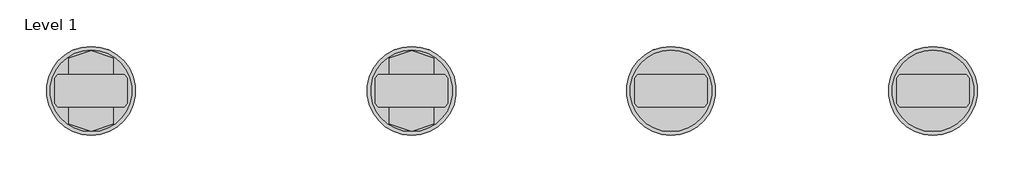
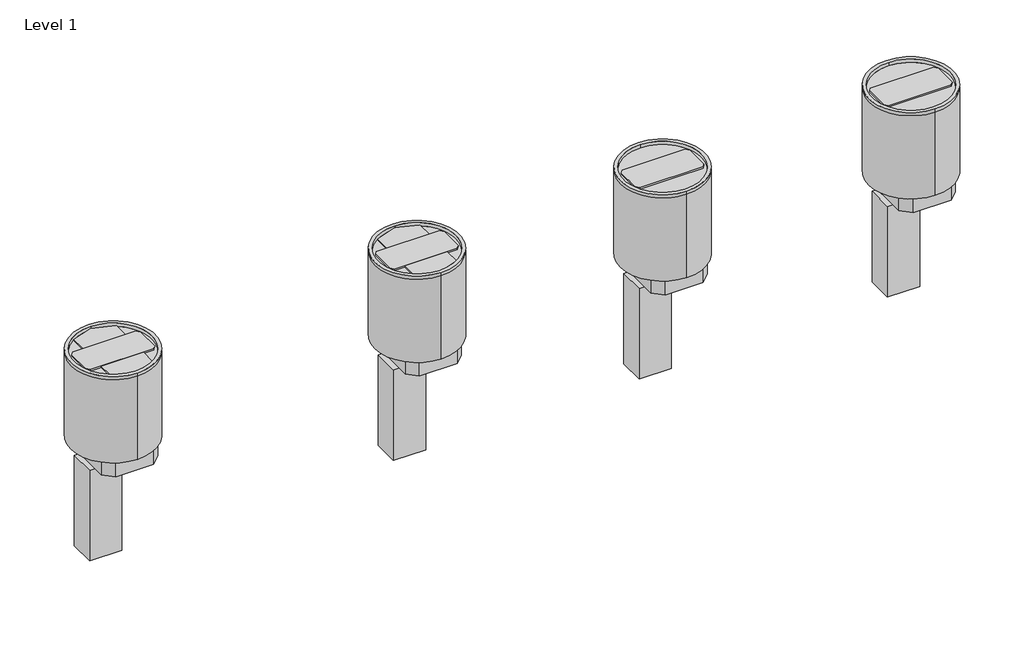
# One storey: 12 proxies.
"""IFC4 building model written with IfcOpenShell, lengths in millimetres."""

from ifc_helpers import new_model, si_unit, origin, place, context, project, spatial, transform, mapped, element, save
from components import center_mount_8_port_comm_47faeaf6, side_mount_2_port_comm_af62ca1e, surface_black_75880dd1

model = new_model("IFC4")

# Units and contexts
model_context = context("Model", 3, world=origin())
ifc_project = project(units=[si_unit("LENGTHUNIT", "METRE", prefix="MILLI")], contexts=[model_context])

# Site, building, storey
site = spatial("IfcSite", under=ifc_project)
building = spatial("IfcBuilding", under=site)
storey = spatial("IfcBuildingStorey", under=building, Name="Level 1", Elevation=0.0)

# Proxies
placement = place(None, origin())
center_mount_8_port_comm_shape = center_mount_8_port_comm_47faeaf6(model_context)
element("IfcBuildingElementProxy", 1, Name="Device_Plate-Evolution_Poke_Thru_6AT_Series-Wiremold : Center Mount-Decorator", ObjectType="Device_Plate-Evolution_Poke_Thru_6AT_Series-Wiremold : Center Mount-Decorator", at=placement, inside=storey, context=model_context, shape_type="MappedRepresentation", body=[
    mapped(center_mount_8_port_comm_shape, transform((2693.9097822, 1443.3219871, -6.35), x_axis=(0.0, -1.0, 0.0), y_axis=(1.0, 0.0, 0.0), z_axis=(0.0, 0.0, 1.0))),
])
side_mount_2_port_comm_shape = side_mount_2_port_comm_af62ca1e(model_context)
element("IfcBuildingElementProxy", 2, Name="Device_Plate-Evolution_Poke_Thru_6AT_Series-Wiremold : Side Mount-MAAP", ObjectType="Device_Plate-Evolution_Poke_Thru_6AT_Series-Wiremold : Side Mount-MAAP", at=placement, inside=storey, context=model_context, shape_type="MappedRepresentation", body=[
    mapped(side_mount_2_port_comm_shape, transform((2693.9097822, 1491.7597871, -6.35), x_axis=(1.0, 0.0, 0.0), y_axis=(0.0, 1.0, 0.0), z_axis=(0.0, 0.0, 1.0))),
])
element("IfcBuildingElementProxy", 3, Name="Device_Plate-Evolution_Poke_Thru_6AT_Series-Wiremold : Side Mount-MAAP", ObjectType="Device_Plate-Evolution_Poke_Thru_6AT_Series-Wiremold : Side Mount-MAAP", at=placement, inside=storey, context=model_context, shape_type="MappedRepresentation", body=[
    mapped(side_mount_2_port_comm_shape, transform((2693.9097822, 1394.8841871, -6.35), x_axis=(-1.0, 0.0, 0.0), y_axis=(0.0, -1.0, 0.0), z_axis=(0.0, 0.0, 1.0))),
])
element("IfcBuildingElementProxy", 4, Name="Device_Plate-Evolution_Poke_Thru_6AT_Series-Wiremold : Center Mount-8 Port Comm", ObjectType="Device_Plate-Evolution_Poke_Thru_6AT_Series-Wiremold : Center Mount-8 Port Comm", at=placement, inside=storey, context=model_context, shape_type="MappedRepresentation", body=[
    mapped(center_mount_8_port_comm_shape, transform((2145.7062844, 1443.3219871, -6.35), x_axis=(0.0, -1.0, 0.0), y_axis=(1.0, 0.0, 0.0), z_axis=(0.0, 0.0, 1.0))),
])
element("IfcBuildingElementProxy", 5, Name="Device_Plate-Evolution_Poke_Thru_6AT_Series-Wiremold : Center Mount-Mosaic", ObjectType="Device_Plate-Evolution_Poke_Thru_6AT_Series-Wiremold : Center Mount-Mosaic", at=placement, inside=storey, context=model_context, shape_type="MappedRepresentation", body=[
    mapped(center_mount_8_port_comm_shape, transform((3137.3733388, 1443.3219871, -6.35), x_axis=(0.0, -1.0, 0.0), y_axis=(1.0, 0.0, 0.0), z_axis=(0.0, 0.0, 1.0))),
])
element("IfcBuildingElementProxy", 6, Name="Device_Plate-Evolution_Poke_Thru_6AT_Series-Wiremold : Center Mount-Single Rec S2", ObjectType="Device_Plate-Evolution_Poke_Thru_6AT_Series-Wiremold : Center Mount-Single Rec S2", at=placement, inside=storey, context=model_context, shape_type="MappedRepresentation", body=[
    mapped(center_mount_8_port_comm_shape, transform((3585.3800998, 1443.3219871, -6.35), x_axis=(0.0, -1.0, 0.0), y_axis=(1.0, 0.0, 0.0), z_axis=(0.0, 0.0, 1.0))),
])
element("IfcBuildingElementProxy", 7, Name="Device_Plate-Evolution_Poke_Thru_6AT_Series-Wiremold : Side Mount-2 Port Comm", ObjectType="Device_Plate-Evolution_Poke_Thru_6AT_Series-Wiremold : Side Mount-2 Port Comm", at=placement, inside=storey, context=model_context, shape_type="MappedRepresentation", body=[
    mapped(side_mount_2_port_comm_shape, transform((2145.7062844, 1491.7597871, -6.35), x_axis=(1.0, 0.0, 0.0), y_axis=(0.0, 1.0, 0.0), z_axis=(0.0, 0.0, 1.0))),
])
element("IfcBuildingElementProxy", 8, Name="Device_Plate-Evolution_Poke_Thru_6AT_Series-Wiremold : Side Mount-2 Port Comm", ObjectType="Device_Plate-Evolution_Poke_Thru_6AT_Series-Wiremold : Side Mount-2 Port Comm", at=placement, inside=storey, context=model_context, shape_type="MappedRepresentation", body=[
    mapped(side_mount_2_port_comm_shape, transform((2145.7062844, 1394.8841871, -6.35), x_axis=(-1.0, 0.0, 0.0), y_axis=(0.0, -1.0, 0.0), z_axis=(0.0, 0.0, 1.0))),
])
surface_black_shape = surface_black_75880dd1(model_context)
element("IfcBuildingElementProxy", 9, Name="Poke_Thru_Device-Evolution_6AT_Series-Wiremold-Assembly : Surface-Black", ObjectType="Poke_Thru_Device-Evolution_6AT_Series-Wiremold-Assembly : Surface-Black", at=placement, inside=storey, context=model_context, shape_type="MappedRepresentation", body=[
    mapped(surface_black_shape, transform((2145.7062844, 1443.3219871, 0.0), x_axis=(0.0, 1.0, 0.0), y_axis=(-1.0, 0.0, 0.0), z_axis=(0.0, 0.0, 1.0))),
])
element("IfcBuildingElementProxy", 10, Name="Poke_Thru_Device-Evolution_6AT_Series-Wiremold-Assembly : Surface-Black", ObjectType="Poke_Thru_Device-Evolution_6AT_Series-Wiremold-Assembly : Surface-Black", at=placement, inside=storey, context=model_context, shape_type="MappedRepresentation", body=[
    mapped(surface_black_shape, transform((2693.9097822, 1443.3219871, 0.0), x_axis=(0.0, 1.0, 0.0), y_axis=(-1.0, 0.0, 0.0), z_axis=(0.0, 0.0, 1.0))),
])
element("IfcBuildingElementProxy", 11, Name="Poke_Thru_Device-Evolution_6AT_Series-Wiremold-Assembly : Surface-Black", ObjectType="Poke_Thru_Device-Evolution_6AT_Series-Wiremold-Assembly : Surface-Black", at=placement, inside=storey, context=model_context, shape_type="MappedRepresentation", body=[
    mapped(surface_black_shape, transform((3137.3733388, 1443.3219871, 0.0), x_axis=(0.0, 1.0, 0.0), y_axis=(-1.0, 0.0, 0.0), z_axis=(0.0, 0.0, 1.0))),
])
element("IfcBuildingElementProxy", 12, Name="Poke_Thru_Device-Evolution_6AT_Series-Wiremold-Assembly : Surface-Black", ObjectType="Poke_Thru_Device-Evolution_6AT_Series-Wiremold-Assembly : Surface-Black", at=placement, inside=storey, context=model_context, shape_type="MappedRepresentation", body=[
    mapped(surface_black_shape, transform((3585.3800998, 1443.3219871, 0.0), x_axis=(0.0, 1.0, 0.0), y_axis=(-1.0, 0.0, 0.0), z_axis=(0.0, 0.0, 1.0))),
])

save(model, "model.ifc")
